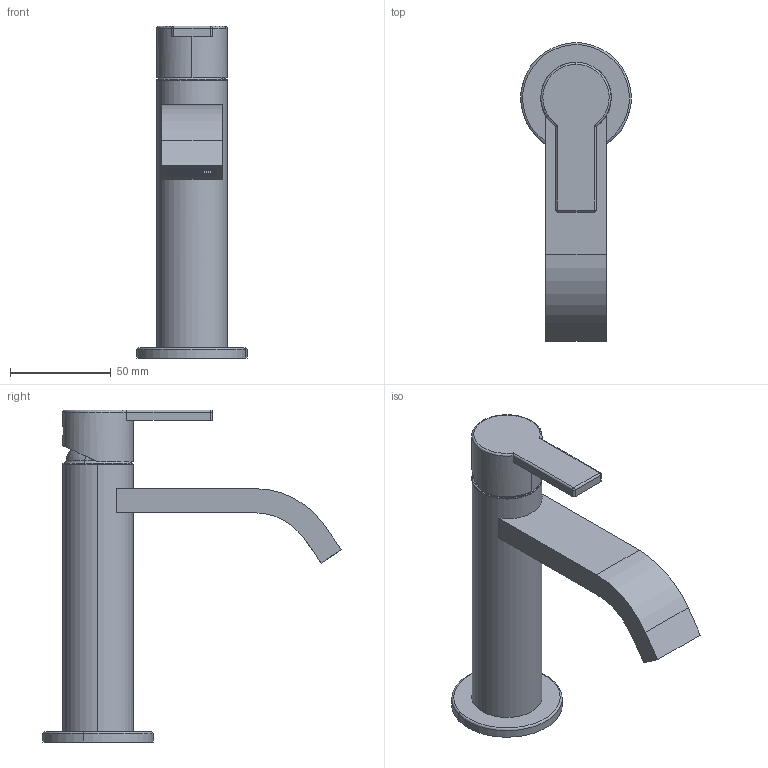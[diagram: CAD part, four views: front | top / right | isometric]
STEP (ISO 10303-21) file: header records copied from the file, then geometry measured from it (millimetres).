
FILE_DESCRIPTION (( 'STEP AP203' ), '1' );
FILE_NAME ('IKO1D.STEP', '2024-10-31T14:09:01', ( '' ), ( '' ), 'SwSTEP 2.0', 'SolidWorks 2023', '' );
FILE_SCHEMA (( 'CONFIG_CONTROL_DESIGN' ));
Length unit declared in the file: millimetre
Products named in the file (15): C47.00.0023.01; C11.14.0009; C12.00.0045; C13.00.0010; C24.1860.00.0; IKO1D; C20.575135.00; C23.0824.01; C24.1863.00.0; C24.1870.00.0; C24.1861.00.0; C10.00.0029; C11.14.0012; C23.0360.01; C12.00.0028
Assembly tree (14 placements, depth 2):
  IKO1D
    C24.1860.00.0
    C24.1870.00.0
    C20.575135.00
    C24.1861.00.0
    C23.0824.01
    C24.1863.00.0
    C12.00.0028
    C10.00.0029
    C23.0360.01
    C11.14.0009
    C47.00.0023.01
    C12.00.0045
    C13.00.0010
    C11.14.0012
Bounding box: 54.83 x 148.44 x 165.1 mm (x, y, z)
Volume: 127302.1 mm3; surface area: 72288.1 mm2
Topology: 17 solids, 17 shells, 1127 faces, 2687 edges, 1723 vertices
Faces by surface type: plane 708, cylinder 238, cone 73, bspline 59, torus 42, sphere 7
Entity records: 36002 total; most frequent: CARTESIAN_POINT 8100, DIRECTION 5466, ORIENTED_EDGE 5358, EDGE_CURVE 2679, AXIS2_PLACEMENT_3D 1840, VECTOR 1786, LINE 1786, VERTEX_POINT 1725
